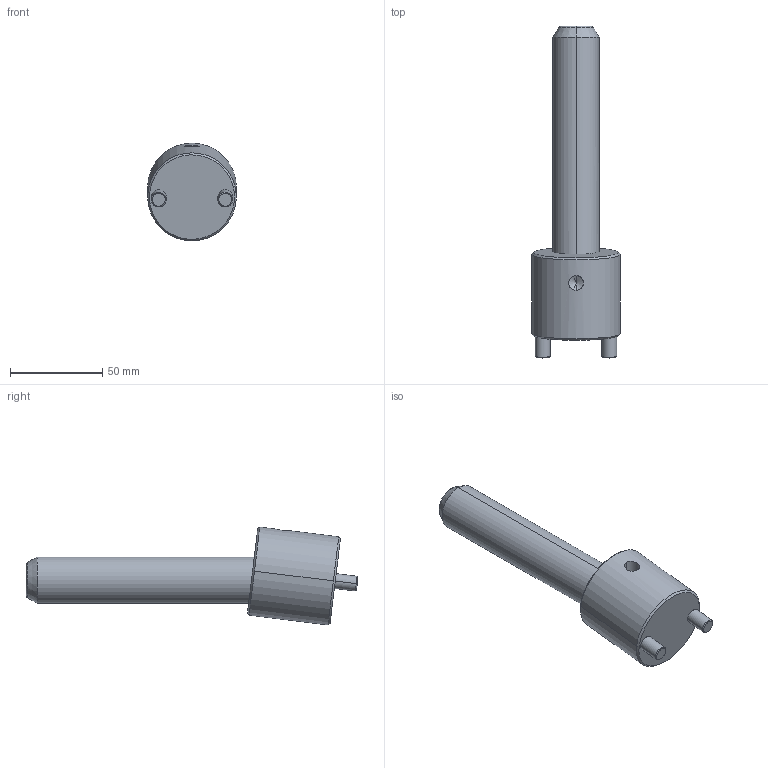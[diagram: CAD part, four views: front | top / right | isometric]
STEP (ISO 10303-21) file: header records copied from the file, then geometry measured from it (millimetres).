
FILE_DESCRIPTION(('CATIA V5 STEP Exchange'),'2;1');
FILE_NAME('C:\Users\Raffaele\Desktop\3D BOLEX\3D FILES CF BOLEX\19-INCLINED ASSEMBLY REF_CI\CI0725125.stp','2019-06-24T07:09:53+00:00',('none'),('none'),'CATIA Version 5 Release 20 GA (IN-10)','CATIA V5 STEP AP203','none');
FILE_SCHEMA(('CONFIG_CONTROL_DESIGN'));
Length unit declared in the file: millimetre
Products named in the file (1): CI0725125
Assembly tree (2 placements, depth 2):
  CI0725125
    #58
    #602
Bounding box: 48 x 179.61 x 52.88 mm (x, y, z)
Volume: 140395.9 mm3; surface area: 27441.7 mm2
Topology: 2 solids, 2 shells, 39 faces, 82 edges, 47 vertices
Faces by surface type: cone 14, cylinder 14, plane 7, torus 4
Entity records: 1527 total; most frequent: CARTESIAN_POINT 668, ORIENTED_EDGE 160, DIRECTION 145, EDGE_CURVE 80, AXIS2_PLACEMENT_3D 72, VERTEX_POINT 47, EDGE_LOOP 43, ADVANCED_FACE 39
